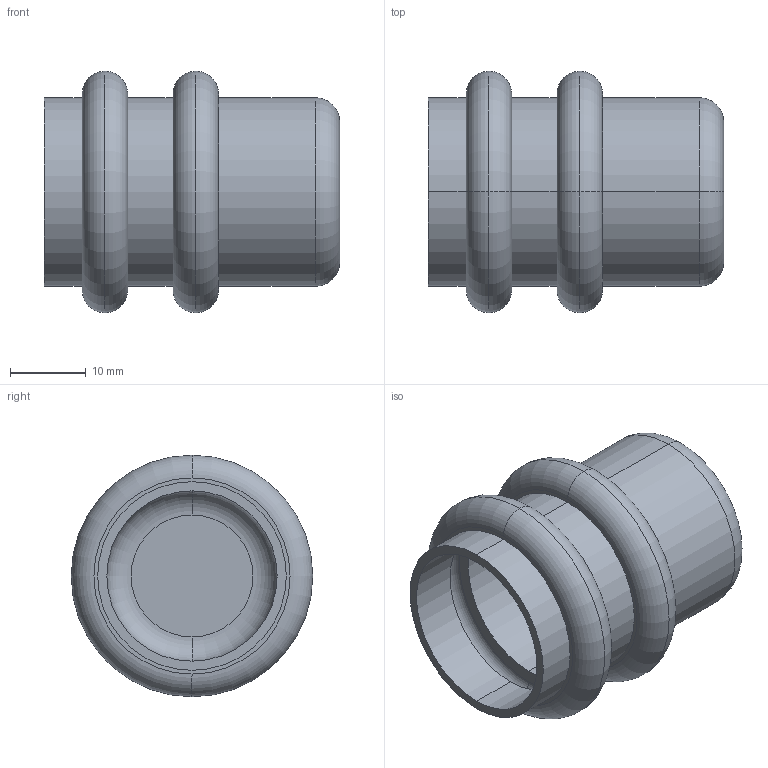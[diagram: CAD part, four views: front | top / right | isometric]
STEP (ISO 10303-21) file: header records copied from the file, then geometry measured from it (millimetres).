
FILE_DESCRIPTION(('starvars output'),'1');
FILE_NAME('cv20240422105107000011657.stp','10:51:08 2024/04/22',('Thomas Industrial Network Germany GmbH'),(' '),'Spatial InterOp 3D',' ',' ');
FILE_SCHEMA(('AUTOMOTIVE_DESIGN { 1 0 10303 214 3 1 1 }'));
Length unit declared in the file: millimetre
Products named in the file (1): 1
Bounding box: 39 x 31.9 x 31.9 mm (x, y, z)
Volume: 5331.5 mm3; surface area: 8434.8 mm2
Topology: 1 solids, 1 shells, 43 faces, 84 edges, 52 vertices
Faces by surface type: torus 20, cylinder 12, plane 11
Entity records: 1502 total; most frequent: DIRECTION 244, CARTESIAN_POINT 180, ORIENTED_EDGE 168, AXIS2_PLACEMENT_3D 116, EDGE_CURVE 84, CIRCLE 72, EDGE_LOOP 52, VERTEX_POINT 52
